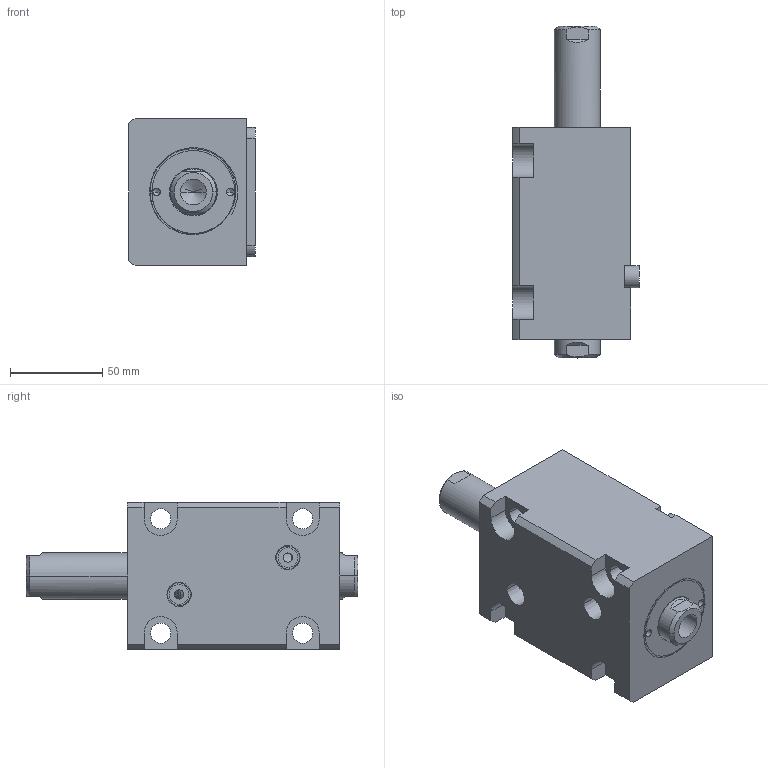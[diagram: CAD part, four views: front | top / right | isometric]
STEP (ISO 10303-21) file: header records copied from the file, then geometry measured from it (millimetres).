
FILE_DESCRIPTION (( 'STEP AP214' ), '1' );
FILE_NAME ('chtb-lw40x45_asm.STEP', '2018-06-05T01:35:44', ( 'Windows' ), ( 'Microsoft' ), 'SwSTEP 2.0', 'SolidWorks 2015', '' );
FILE_SCHEMA (( 'AUTOMOTIVE_DESIGN' ));
Length unit declared in the file: millimetre
Products named in the file (5): CHTB-SW40X45NHSG; CHTB-SD40QG; CHTB-LW40X45NBT; CHTB-LA40PJ; chtb-lw40x45_asm
Assembly tree (4 placements, depth 2):
  chtb-lw40x45_asm
    CHTB-LA40PJ
    CHTB-LW40X45NBT
    CHTB-SD40QG
    CHTB-SW40X45NHSG
Bounding box: 68.5 x 180 x 80 mm (x, y, z)
Volume: 542563.3 mm3; surface area: 97860.9 mm2
Topology: 4 solids, 4 shells, 172 faces, 462 edges, 304 vertices
Faces by surface type: cylinder 77, plane 52, cone 17, bspline 14, torus 12
Entity records: 10654 total; most frequent: CARTESIAN_POINT 6188, ORIENTED_EDGE 904, DIRECTION 853, EDGE_CURVE 452, AXIS2_PLACEMENT_3D 340, VERTEX_POINT 304, EDGE_LOOP 204, CIRCLE 175
